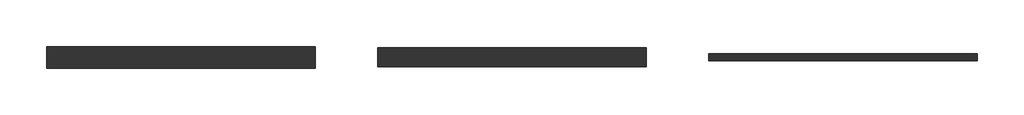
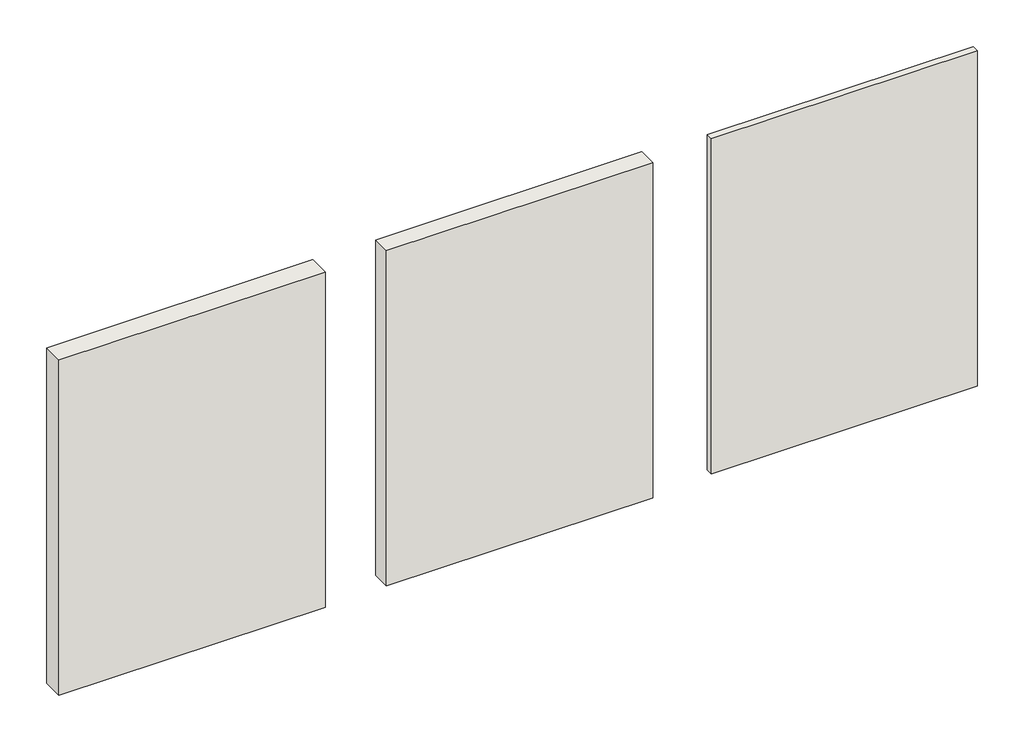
# One storey: 3 walls.
"""IFC4 building model written with IfcOpenShell, lengths in millimetres."""

from ifc_helpers import new_model, si_unit, origin, origin_with_axes, place, context, project, spatial, polyline, outline, extrude, element, save

model = new_model("IFC4")

# Units and contexts
model_context = context("Model", 3, world=origin())
ifc_project = project(units=[si_unit("LENGTHUNIT", "METRE", prefix="MILLI")], contexts=[model_context])

# Site, building, storey
site = spatial("IfcSite", under=ifc_project)
building = spatial("IfcBuilding", under=site)
storey = spatial("IfcBuildingStorey", under=building, Name="Уровень 1", Elevation=0.0)

# Walls
placement = place(None, origin())
element("IfcWall", 1, ObjectType="Перегородка КНАУФ ПГП 80 Применение внутри здания Двойная ПлГ 80", at=placement, inside=storey, context=model_context, shape_type="SweptSolid", body=[
    extrude(outline(polyline([(1381.12061, 908.2880129), (-1618.87939, 908.2880129), (-1618.87939, 1148.2880129), (1381.12061, 1148.2880129), (1381.12061, 908.2880129)])), origin_with_axes(), (0.0, 0.0, 1.0), 4000.0),
])
element("IfcWall", 2, ObjectType="Перегородка КНАУФ ПГП 80 Применение внутри здания Двойная ПлГ 80 Мин.вата", at=placement, inside=storey, context=model_context, shape_type="SweptSolid", body=[
    extrude(outline(polyline([(5081.12061, 923.2880129), (2081.12061, 923.2880129), (2081.12061, 1133.2880129), (5081.12061, 1133.2880129), (5081.12061, 923.2880129)])), origin_with_axes(), (0.0, 0.0, 1.0), 4000.0),
])
element("IfcWall", 3, ObjectType="Перегородка КНАУФ ПГП 80 Применение внутри здания Одинарная ПлГ 80", at=placement, inside=storey, context=model_context, shape_type="SweptSolid", body=[
    extrude(outline(polyline([(8781.12061, 988.2880129), (5781.12061, 988.2880129), (5781.12061, 1068.2880129), (8781.12061, 1068.2880129), (8781.12061, 988.2880129)])), origin_with_axes(), (0.0, 0.0, 1.0), 4000.0),
])

save(model, "model.ifc")
